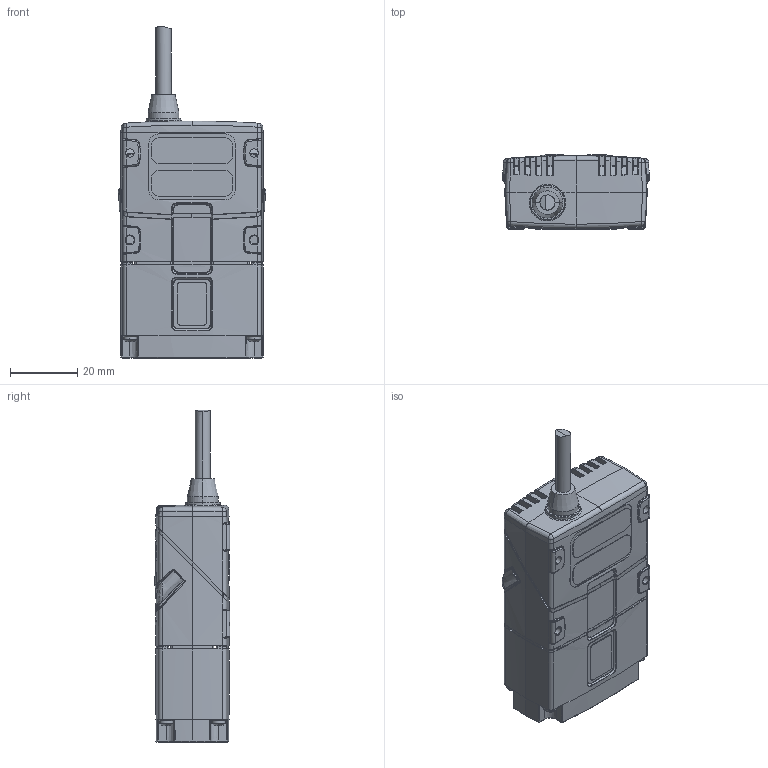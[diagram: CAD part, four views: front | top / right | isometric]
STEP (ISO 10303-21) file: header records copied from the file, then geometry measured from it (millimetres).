
FILE_DESCRIPTION (( 'STEP AP203' ), '1' );
FILE_NAME ('DM15X_16mm_straight.STEP', '2016-04-15T12:10:18', ( '' ), ( '' ), 'SwSTEP 2.0', 'SolidWorks 2014', '' );
FILE_SCHEMA (( 'CONFIG_CONTROL_DESIGN' ));
Length unit declared in the file: millimetre
Products named in the file (1): DM15X_16mm_straight
Bounding box: 43.87 x 22.45 x 98.87 mm (x, y, z)
Surface area: 13623.4 mm2 (no closed solid volume)
Topology: 0 solids, 34 shells, 1188 faces, 3920 edges, 2668 vertices
Faces by surface type: bspline 512, plane 277, cylinder 245, cone 82, torus 60, sphere 12
Entity records: 59250 total; most frequent: CARTESIAN_POINT 30928, ORIENTED_EDGE 6448, DIRECTION 4323, EDGE_CURVE 3898, VERTEX_POINT 2668, AXIS2_PLACEMENT_3D 1622, B_SPLINE_CURVE_WITH_KNOTS 1611, EDGE_LOOP 1257
